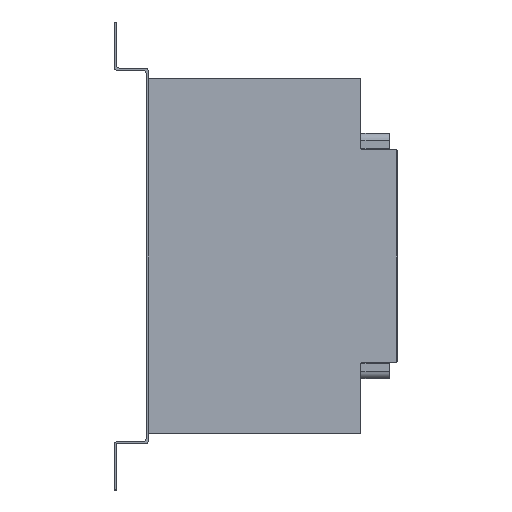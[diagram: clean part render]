
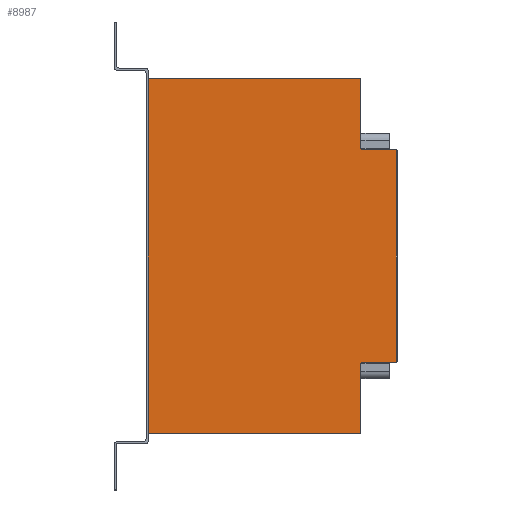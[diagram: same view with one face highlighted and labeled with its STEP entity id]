
A CAD part, left-side view. The second image highlights one B-rep face of the part: STEP entity #8987.
In plain terms, the highlighted planar face has unit normal (-1, 0, 0).
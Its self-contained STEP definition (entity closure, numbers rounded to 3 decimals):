
#327=PLANE('',#9595);
#692=FACE_OUTER_BOUND('',#1212,.T.);
#1212=EDGE_LOOP('',(#6610,#6611,#6612,#6613,#6614,#6615,#6616,#6617,#6618,
#6619,#6620,#6621));
#1798=LINE('',#12845,#2780);
#1868=LINE('',#13049,#2850);
#1923=LINE('',#13179,#2905);
#1995=LINE('',#13349,#2977);
#2006=LINE('',#13374,#2988);
#2013=LINE('',#13396,#2995);
#2014=LINE('',#13398,#2996);
#2015=LINE('',#13399,#2997);
#2780=VECTOR('',#10324,24.);
#2850=VECTOR('',#10500,24.);
#2905=VECTOR('',#10605,149.);
#2977=VECTOR('',#10749,149.);
#2988=VECTOR('',#10770,48.);
#2995=VECTOR('',#10799,150.);
#2996=VECTOR('',#10802,48.);
#2997=VECTOR('',#10803,250.);
#3699=CIRCLE('',#9491,1.);
#3711=CIRCLE('',#9539,1.);
#3730=CIRCLE('',#9580,1.);
#3732=CIRCLE('',#9586,1.);
#3996=VERTEX_POINT('',#12842);
#3997=VERTEX_POINT('',#12844);
#4023=VERTEX_POINT('',#12919);
#4077=VERTEX_POINT('',#13046);
#4078=VERTEX_POINT('',#13048);
#4122=VERTEX_POINT('',#13162);
#4123=VERTEX_POINT('',#13163);
#4128=VERTEX_POINT('',#13178);
#4189=VERTEX_POINT('',#13346);
#4190=VERTEX_POINT('',#13348);
#4195=VERTEX_POINT('',#13361);
#4199=VERTEX_POINT('',#13373);
#4885=EDGE_CURVE('',#3997,#3996,#1798,.T.);
#4924=EDGE_CURVE('',#3997,#4023,#3699,.T.);
#4986=EDGE_CURVE('',#4078,#4077,#1868,.T.);
#5047=EDGE_CURVE('',#4122,#4123,#3711,.T.);
#5055=EDGE_CURVE('',#4128,#4123,#1923,.T.);
#5144=EDGE_CURVE('',#4190,#4189,#1995,.T.);
#5151=EDGE_CURVE('',#4190,#4195,#3730,.T.);
#5157=EDGE_CURVE('',#4199,#4195,#2006,.T.);
#5160=EDGE_CURVE('',#4199,#4077,#3732,.T.);
#5170=EDGE_CURVE('',#4078,#3996,#2013,.T.);
#5171=EDGE_CURVE('',#4122,#4023,#2014,.T.);
#5172=EDGE_CURVE('',#4128,#4189,#2015,.T.);
#6610=ORIENTED_EDGE('',*,*,#5047,.F.);
#6611=ORIENTED_EDGE('',*,*,#5171,.T.);
#6612=ORIENTED_EDGE('',*,*,#4924,.F.);
#6613=ORIENTED_EDGE('',*,*,#4885,.T.);
#6614=ORIENTED_EDGE('',*,*,#5170,.F.);
#6615=ORIENTED_EDGE('',*,*,#4986,.T.);
#6616=ORIENTED_EDGE('',*,*,#5160,.F.);
#6617=ORIENTED_EDGE('',*,*,#5157,.T.);
#6618=ORIENTED_EDGE('',*,*,#5151,.F.);
#6619=ORIENTED_EDGE('',*,*,#5144,.T.);
#6620=ORIENTED_EDGE('',*,*,#5172,.F.);
#6621=ORIENTED_EDGE('',*,*,#5055,.T.);
#8987=ADVANCED_FACE('',(#692),#327,.T.);
#9491=AXIS2_PLACEMENT_3D('',#12920,#10399,#10400);
#9539=AXIS2_PLACEMENT_3D('',#13164,#10591,#10592);
#9580=AXIS2_PLACEMENT_3D('',#13362,#10758,#10759);
#9586=AXIS2_PLACEMENT_3D('',#13378,#10776,#10777);
#9595=AXIS2_PLACEMENT_3D('',#13397,#10800,#10801);
#10324=DIRECTION('',(0.,-1.,0.));
#10399=DIRECTION('center_axis',(-1.,0.,0.));
#10400=DIRECTION('ref_axis',(0.,0.707,0.707));
#10500=DIRECTION('',(0.,1.,0.));
#10591=DIRECTION('center_axis',(1.,0.,0.));
#10592=DIRECTION('ref_axis',(0.,-0.707,-0.707));
#10605=DIRECTION('',(0.,-1.,0.));
#10749=DIRECTION('',(0.,1.,0.));
#10758=DIRECTION('center_axis',(1.,0.,0.));
#10759=DIRECTION('ref_axis',(0.,-0.707,0.707));
#10770=DIRECTION('',(0.,0.,1.));
#10776=DIRECTION('center_axis',(-1.,0.,0.));
#10777=DIRECTION('ref_axis',(0.,0.707,-0.707));
#10799=DIRECTION('',(0.,0.,-1.));
#10800=DIRECTION('center_axis',(-1.,0.,0.));
#10801=DIRECTION('ref_axis',(0.,-1.,0.));
#10802=DIRECTION('',(0.,0.,1.));
#10803=DIRECTION('',(0.,0.,1.));
#12842=CARTESIAN_POINT('',(29.845,-376.788,67.5));
#12844=CARTESIAN_POINT('',(29.845,-352.788,67.5));
#12845=CARTESIAN_POINT('',(29.845,-351.788,67.5));
#12919=CARTESIAN_POINT('',(29.845,-351.788,66.5));
#12920=CARTESIAN_POINT('Origin',(29.845,-352.788,66.5));
#13046=CARTESIAN_POINT('',(29.845,-352.788,217.5));
#13048=CARTESIAN_POINT('',(29.845,-376.788,217.5));
#13049=CARTESIAN_POINT('',(29.845,-377.788,217.5));
#13162=CARTESIAN_POINT('',(29.845,-351.788,18.5));
#13163=CARTESIAN_POINT('',(29.845,-350.788,17.5));
#13164=CARTESIAN_POINT('Origin',(29.845,-350.788,18.5));
#13178=CARTESIAN_POINT('',(29.845,-201.788,17.5));
#13179=CARTESIAN_POINT('',(29.845,-201.788,17.5));
#13346=CARTESIAN_POINT('',(29.845,-201.788,267.5));
#13348=CARTESIAN_POINT('',(29.845,-350.788,267.5));
#13349=CARTESIAN_POINT('',(29.845,-351.788,267.5));
#13361=CARTESIAN_POINT('',(29.845,-351.788,266.5));
#13362=CARTESIAN_POINT('Origin',(29.845,-350.788,266.5));
#13373=CARTESIAN_POINT('',(29.845,-351.788,218.5));
#13374=CARTESIAN_POINT('',(29.845,-351.788,217.5));
#13378=CARTESIAN_POINT('Origin',(29.845,-352.788,218.5));
#13396=CARTESIAN_POINT('',(29.845,-376.788,105.));
#13397=CARTESIAN_POINT('Origin',(29.845,-286.736,142.5));
#13398=CARTESIAN_POINT('',(29.845,-351.788,17.5));
#13399=CARTESIAN_POINT('',(29.845,-201.788,208.75));
